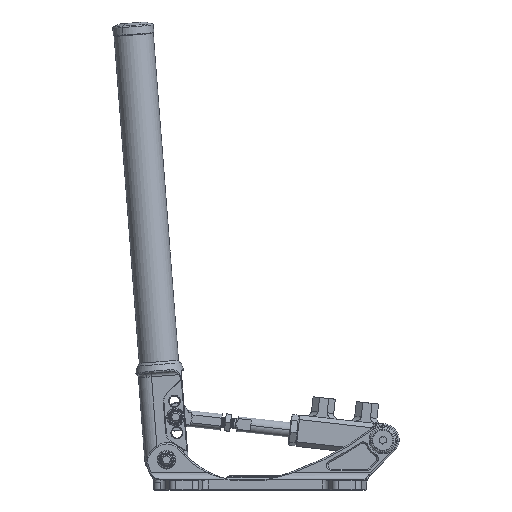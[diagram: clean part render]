
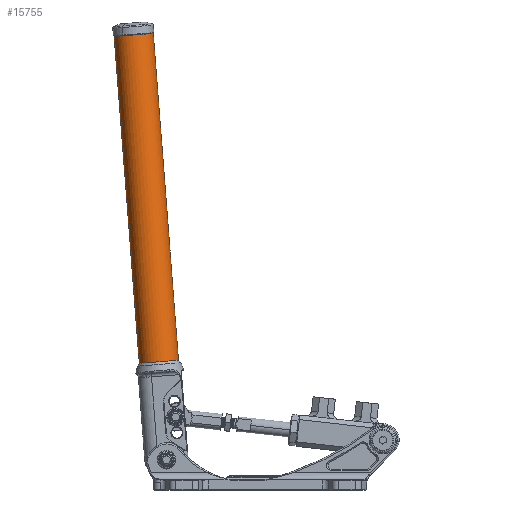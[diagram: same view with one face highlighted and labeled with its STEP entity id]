
A CAD part, front view. The second image highlights one B-rep face of the part: STEP entity #15755.
In plain terms, the highlighted cylindrical face has radius 15 mm (diameter 30 mm), a partial arc.
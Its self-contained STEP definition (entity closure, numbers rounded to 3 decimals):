
#1056 = EDGE_CURVE ( 'NONE', #49896, #10385, #77831, .T. ) ;
#2967 = VERTEX_POINT ( 'NONE', #50844 ) ;
#3274 = CARTESIAN_POINT ( 'NONE',  ( -147.621, 6.973, 109.669 ) ) ;
#4364 = LINE ( 'NONE', #45653, #75130 ) ;
#4884 = FACE_OUTER_BOUND ( 'NONE', #70012, .T. ) ;
#5958 = DIRECTION ( 'NONE',  ( 0.077, 0., -0.997 ) ) ;
#6755 = DIRECTION ( 'NONE',  ( 0.077, 0., -0.997 ) ) ;
#10385 = VERTEX_POINT ( 'NONE', #52544 ) ;
#13568 = EDGE_CURVE ( 'NONE', #49896, #15143, #4364, .T. ) ;
#13720 = EDGE_CURVE ( 'NONE', #15143, #2967, #17635, .T. ) ;
#15143 = VERTEX_POINT ( 'NONE', #3274 ) ;
#15755 = ADVANCED_FACE ( 'NONE', ( #4884 ), #77952, .T. ) ;
#17635 = CIRCLE ( 'NONE', #68354, 15. ) ;
#18635 = AXIS2_PLACEMENT_3D ( 'NONE', #43426, #92660, #75220 ) ;
#20629 = EDGE_CURVE ( 'NONE', #10385, #2967, #31620, .T. ) ;
#23812 = CARTESIAN_POINT ( 'NONE',  ( -132.687, 6.162, 110.821 ) ) ;
#31107 = CARTESIAN_POINT ( 'NONE',  ( -136.986, 5.351, 361.233 ) ) ;
#31375 = ORIENTED_EDGE ( 'NONE', *, *, #13568, .T. ) ;
#31620 = LINE ( 'NONE', #31107, #35391 ) ;
#35391 = VECTOR ( 'NONE', #6755, 1000. ) ;
#36209 = ORIENTED_EDGE ( 'NONE', *, *, #13720, .T. ) ;
#43426 = CARTESIAN_POINT ( 'NONE',  ( -151.92, 6.162, 360.08 ) ) ;
#44571 = DIRECTION ( 'NONE',  ( 0.996, -0.054, 0.077 ) ) ;
#45653 = CARTESIAN_POINT ( 'NONE',  ( -166.853, 6.973, 358.928 ) ) ;
#46305 = CARTESIAN_POINT ( 'NONE',  ( -166.853, 6.973, 358.928 ) ) ;
#48117 = DIRECTION ( 'NONE',  ( -0.077, 0., 0.997 ) ) ;
#48735 = ORIENTED_EDGE ( 'NONE', *, *, #20629, .F. ) ;
#49896 = VERTEX_POINT ( 'NONE', #46305 ) ;
#50844 = CARTESIAN_POINT ( 'NONE',  ( -117.753, 5.351, 111.973 ) ) ;
#52544 = CARTESIAN_POINT ( 'NONE',  ( -136.986, 5.351, 361.233 ) ) ;
#67887 = DIRECTION ( 'NONE',  ( 0.077, 0., -0.997 ) ) ;
#68354 = AXIS2_PLACEMENT_3D ( 'NONE', #23812, #48117, #80412 ) ;
#70012 = EDGE_LOOP ( 'NONE', ( #99839, #31375, #36209, #48735 ) ) ;
#75130 = VECTOR ( 'NONE', #5958, 1000. ) ;
#75220 = DIRECTION ( 'NONE',  ( -0.996, 0.054, -0.077 ) ) ;
#77831 = CIRCLE ( 'NONE', #18635, 15. ) ;
#77952 = CYLINDRICAL_SURFACE ( 'NONE', #96198, 15. ) ;
#80412 = DIRECTION ( 'NONE',  ( -0.996, 0.054, -0.077 ) ) ;
#92660 = DIRECTION ( 'NONE',  ( -0.077, 0., 0.997 ) ) ;
#96198 = AXIS2_PLACEMENT_3D ( 'NONE', #101226, #67887, #44571 ) ;
#99839 = ORIENTED_EDGE ( 'NONE', *, *, #1056, .F. ) ;
#101226 = CARTESIAN_POINT ( 'NONE',  ( -151.92, 6.162, 360.08 ) ) ;
